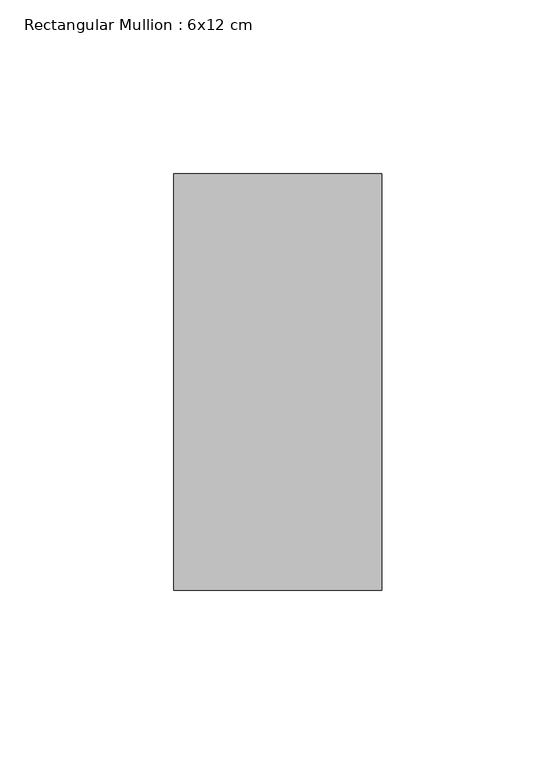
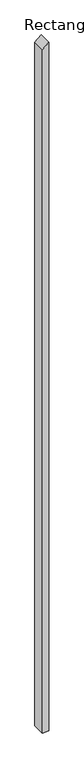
"""IFC4 building model written with IfcOpenShell, lengths in millimetres: member geometry, Rectangular Mullion : 6x12 cm."""

from ifc_helpers import new_model, si_unit, frame, origin, place, context, project, spatial, polyline, outline, extrude, source, transform, mapped, element, save


def rectangular_mullion_6x12_cm_cab2f544(model_context):
    return source(origin(), model_context, "Body", "SweptSolid", [
        extrude(outline(polyline([(-53.0382846, 30.0), (-102.5744079, -30.0), (-6798.5908208, -30.0), (-6798.5908208, 30.0), (-53.0382846, 30.0)])), frame((0.0, 85.0, 0.0), z_axis=(0.0, 1.0, 0.0), x_axis=(0.0, 0.0, 1.0)), (0.0, 0.0, 1.0), 120.0),
    ])


if __name__ == "__main__":
    model = new_model("IFC4")
    model_context = context("Model", 3, world=origin())
    ifc_project = project(units=[si_unit("LENGTHUNIT", "METRE", prefix="MILLI")], contexts=[model_context])
    site = spatial("IfcSite", under=ifc_project)
    building = spatial("IfcBuilding", under=site)
    placement = place(None, origin())
    rectangular_mullion_6x12_cm_shape = rectangular_mullion_6x12_cm_cab2f544(model_context)
    element("IfcMember", 1, ObjectType="Rectangular Mullion : 6x12 cm", at=placement, inside=building, context=model_context, shape_type="MappedRepresentation", body=[
        mapped(rectangular_mullion_6x12_cm_shape, transform((0.0, 0.0, 0.0), x_axis=(1.0, 0.0, 0.0), y_axis=(0.0, 1.0, 0.0), z_axis=(0.0, 0.0, 1.0))),
    ])
    save(model, "model.ifc")
